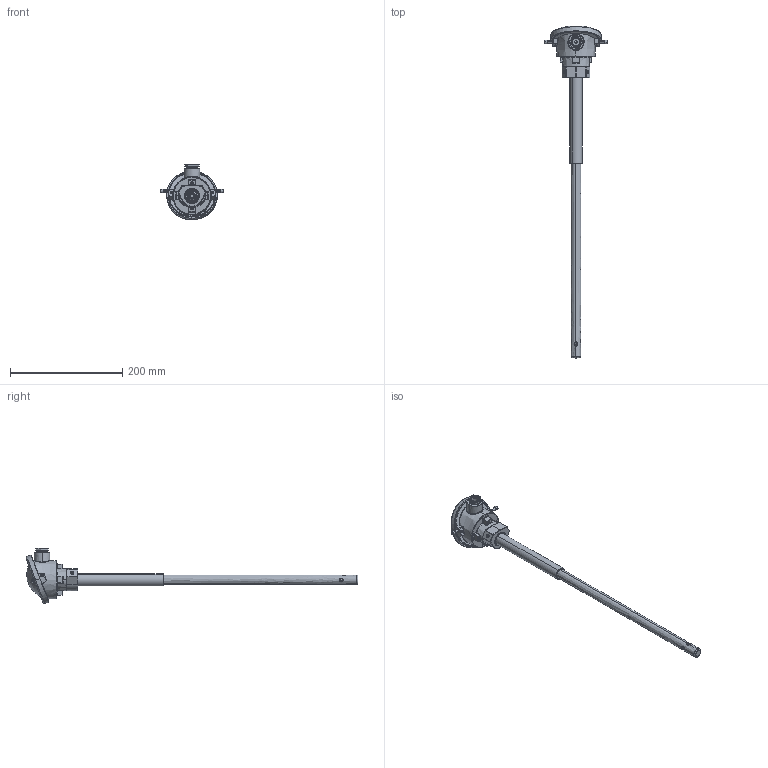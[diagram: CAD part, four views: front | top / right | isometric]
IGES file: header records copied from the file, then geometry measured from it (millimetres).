
Start section: SolidWorks IGES file using analytic representation for surfaces
Global section: file name: U:\02 - Zeichungen\8-0101-SR22\13-010101-SR22.IGS; native system: SolidWorks 2018; preprocessor: SolidWorks 2018; author: koertv0d; date: 180820.170133; units: millimetre
Bounding box: 113.5 x 592.53 x 99.46 mm (x, y, z)
Surface area: 194516.4 mm2 (no closed solid volume)
Topology: 0 solids, 0 shells, 950 faces, 15891 edges, 15846 vertices
Faces by surface type: revolution 513, bspline 437
